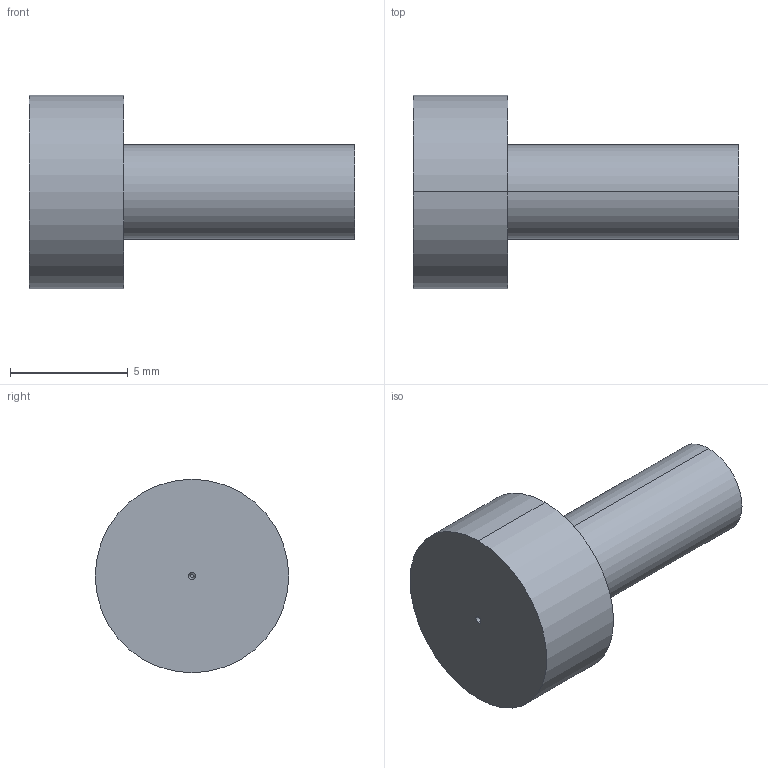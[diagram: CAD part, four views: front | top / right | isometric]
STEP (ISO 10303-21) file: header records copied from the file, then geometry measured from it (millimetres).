
FILE_DESCRIPTION (( 'STEP AP214' ), '1' );
FILE_NAME ('BR1302-16.STEP', '2020-06-15T17:20:04', ( 'August' ), ( '' ), 'SwSTEP 2.0', 'SolidWorks 2018', '' );
FILE_SCHEMA (( 'AUTOMOTIVE_DESIGN' ));
Length unit declared in the file: millimetre
Products named in the file (1): BR1302-16
Bounding box: 13.8 x 8.2 x 8.2 mm (x, y, z)
Volume: 334.4 mm3; surface area: 332 mm2
Topology: 1 solids, 1 shells, 10 faces, 18 edges, 12 vertices
Faces by surface type: cylinder 4, plane 4, cone 2
Entity records: 288 total; most frequent: DIRECTION 52, CARTESIAN_POINT 41, ORIENTED_EDGE 36, AXIS2_PLACEMENT_3D 23, EDGE_CURVE 18, CIRCLE 12, VERTEX_POINT 12, EDGE_LOOP 12
